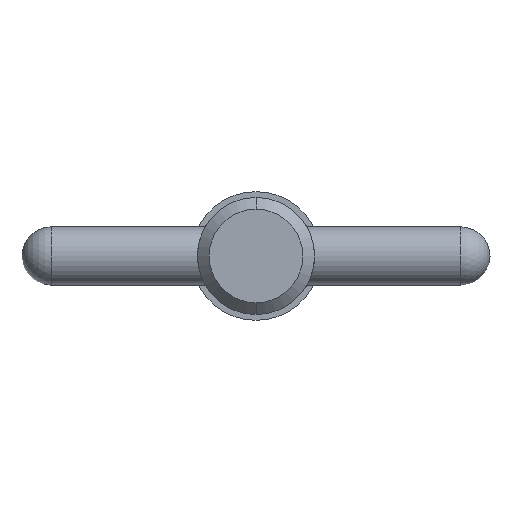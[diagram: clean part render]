
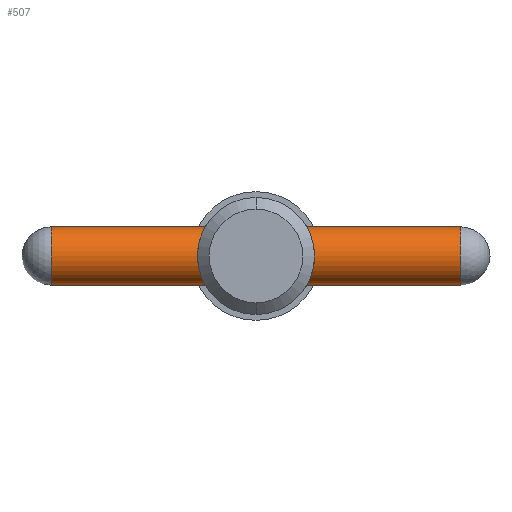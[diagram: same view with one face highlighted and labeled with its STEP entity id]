
A CAD part, left-side view. The second image highlights one B-rep face of the part: STEP entity #507.
In plain terms, the highlighted cylindrical face has radius 1.585 mm (diameter 3.17 mm), a partial arc.
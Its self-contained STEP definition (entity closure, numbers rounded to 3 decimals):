
#7 = DIRECTION ( 'NONE',  ( 0., 0., -1. ) ) ;
#40 = DIRECTION ( 'NONE',  ( 0., 0., -1. ) ) ;
#65 = DIRECTION ( 'NONE',  ( 0., -1., 0. ) ) ;
#75 = ORIENTED_EDGE ( 'NONE', *, *, #330, .T. ) ;
#116 = CIRCLE ( 'NONE', #870, 1.585 ) ;
#171 = VECTOR ( 'NONE', #65, 1000. ) ;
#237 = CARTESIAN_POINT ( 'NONE',  ( 0., -11.115, 1.585 ) ) ;
#250 = VERTEX_POINT ( 'NONE', #237 ) ;
#267 = AXIS2_PLACEMENT_3D ( 'NONE', #669, #361, #40 ) ;
#274 = VERTEX_POINT ( 'NONE', #632 ) ;
#277 = CARTESIAN_POINT ( 'NONE',  ( 0., -11.115, -1.585 ) ) ;
#280 = CARTESIAN_POINT ( 'NONE',  ( 0., 11.115, 1.585 ) ) ;
#330 = EDGE_CURVE ( 'NONE', #538, #274, #116, .T. ) ;
#338 = EDGE_LOOP ( 'NONE', ( #867, #75, #939, #460 ) ) ;
#361 = DIRECTION ( 'NONE',  ( 0., -1., 0. ) ) ;
#366 = CYLINDRICAL_SURFACE ( 'NONE', #267, 1.585 ) ;
#428 = AXIS2_PLACEMENT_3D ( 'NONE', #636, #557, #7 ) ;
#448 = DIRECTION ( 'NONE',  ( 0., -1., 0. ) ) ;
#456 = EDGE_CURVE ( 'NONE', #538, #250, #478, .T. ) ;
#460 = ORIENTED_EDGE ( 'NONE', *, *, #865, .T. ) ;
#478 = LINE ( 'NONE', #876, #659 ) ;
#498 = DIRECTION ( 'NONE',  ( 0., -1., 0. ) ) ;
#507 = ADVANCED_FACE ( 'NONE', ( #941 ), #366, .T. ) ;
#538 = VERTEX_POINT ( 'NONE', #280 ) ;
#557 = DIRECTION ( 'NONE',  ( 0., 1., 0. ) ) ;
#625 = LINE ( 'NONE', #766, #171 ) ;
#632 = CARTESIAN_POINT ( 'NONE',  ( 0., 11.115, -1.585 ) ) ;
#633 = VERTEX_POINT ( 'NONE', #277 ) ;
#636 = CARTESIAN_POINT ( 'NONE',  ( 0., -11.115, 0. ) ) ;
#645 = CIRCLE ( 'NONE', #428, 1.585 ) ;
#659 = VECTOR ( 'NONE', #498, 1000. ) ;
#669 = CARTESIAN_POINT ( 'NONE',  ( 0., 12.7, 0. ) ) ;
#720 = EDGE_CURVE ( 'NONE', #274, #633, #625, .T. ) ;
#766 = CARTESIAN_POINT ( 'NONE',  ( 0., 12.7, -1.585 ) ) ;
#854 = CARTESIAN_POINT ( 'NONE',  ( 0., 11.115, 0. ) ) ;
#865 = EDGE_CURVE ( 'NONE', #633, #250, #645, .T. ) ;
#867 = ORIENTED_EDGE ( 'NONE', *, *, #456, .F. ) ;
#870 = AXIS2_PLACEMENT_3D ( 'NONE', #854, #448, #921 ) ;
#876 = CARTESIAN_POINT ( 'NONE',  ( 0., 12.7, 1.585 ) ) ;
#921 = DIRECTION ( 'NONE',  ( 0., 0., -1. ) ) ;
#939 = ORIENTED_EDGE ( 'NONE', *, *, #720, .T. ) ;
#941 = FACE_OUTER_BOUND ( 'NONE', #338, .T. ) ;
